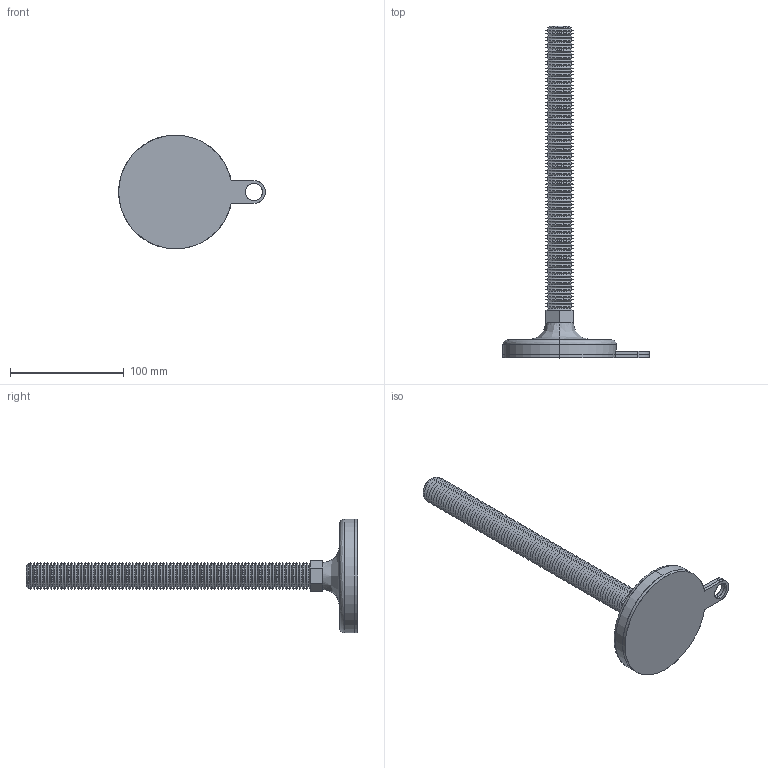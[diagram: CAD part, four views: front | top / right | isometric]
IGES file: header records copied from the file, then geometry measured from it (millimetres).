
Start section: SolidWorks IGES file using analytic representation for surfaces
Global section: file name: C:\Users\liam_\OneDrive\Documents\WORK\Work for WixRoyd\Job Files\J-00026 - Matt Davis CAD - 20191124\04. CAD Drawings\Wixroyd20191124\34704_v2\34704_v2_20191128_IGES\34704.W2407.igs; native system: SolidWorks 2017; preprocessor: SolidWorks 2017; author: liam_; date: 191128.203047; units: millimetre
Bounding box: 129 x 292 x 100 mm (x, y, z)
Surface area: 73040.9 mm2 (no closed solid volume)
Topology: 0 solids, 0 shells, 377 faces, 2140 edges, 2140 vertices
Faces by surface type: revolution 345, bspline 32
